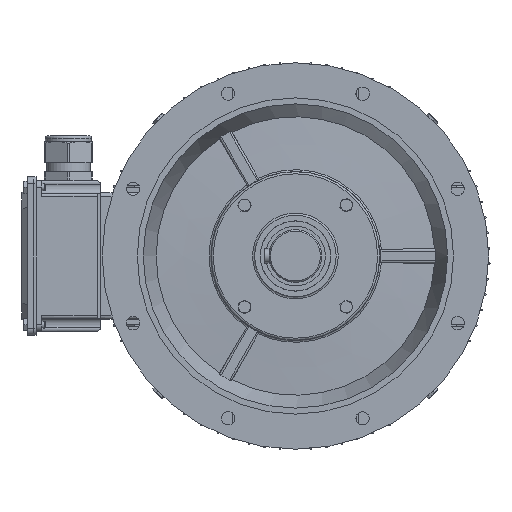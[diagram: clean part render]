
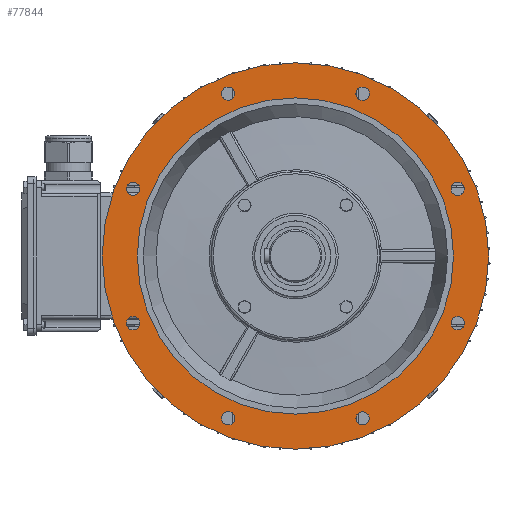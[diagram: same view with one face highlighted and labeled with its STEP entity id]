
A CAD part, left-side view. The second image highlights one B-rep face of the part: STEP entity #77844.
In plain terms, the highlighted planar face has unit normal (-1, 0, 0).
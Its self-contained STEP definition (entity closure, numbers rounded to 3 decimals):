
#77626=CARTESIAN_POINT('',(140.0,88.953,-237.687));
#77627=VERTEX_POINT('',#77626);
#77628=CARTESIAN_POINT('',(140.0,95.671,-230.97));
#77629=DIRECTION('',(1.0,0.,0.));
#77630=DIRECTION('',(0.,0.707,0.707));
#77631=AXIS2_PLACEMENT_3D('',#77628,#77629,#77630);
#77632=CIRCLE('',#77631,9.5);
#77633=EDGE_CURVE('',#77627,#77627,#77632,.T.);
#77646=CARTESIAN_POINT('',(140.0,-105.171,-230.97));
#77647=VERTEX_POINT('',#77646);
#77648=CARTESIAN_POINT('',(140.0,-95.671,-230.97));
#77649=DIRECTION('',(1.0,0.0,0.0));
#77650=DIRECTION('',(0.0,1.0,0.0));
#77651=AXIS2_PLACEMENT_3D('',#77648,#77649,#77650);
#77652=CIRCLE('',#77651,9.5);
#77653=EDGE_CURVE('',#77647,#77647,#77652,.T.);
#77666=CARTESIAN_POINT('',(140.0,-237.687,-88.953));
#77667=VERTEX_POINT('',#77666);
#77668=CARTESIAN_POINT('',(140.0,-230.97,-95.671));
#77669=DIRECTION('',(1.0,0.,0.));
#77670=DIRECTION('',(0.,0.707,-0.707));
#77671=AXIS2_PLACEMENT_3D('',#77668,#77669,#77670);
#77672=CIRCLE('',#77671,9.5);
#77673=EDGE_CURVE('',#77667,#77667,#77672,.T.);
#77686=CARTESIAN_POINT('',(140.0,-230.97,105.171));
#77687=VERTEX_POINT('',#77686);
#77688=CARTESIAN_POINT('',(140.0,-230.97,95.671));
#77689=DIRECTION('',(1.0,0.0,0.0));
#77690=DIRECTION('',(0.0,0.0,-1.0));
#77691=AXIS2_PLACEMENT_3D('',#77688,#77689,#77690);
#77692=CIRCLE('',#77691,9.5);
#77693=EDGE_CURVE('',#77687,#77687,#77692,.T.);
#77706=CARTESIAN_POINT('',(140.0,-88.953,237.687));
#77707=VERTEX_POINT('',#77706);
#77708=CARTESIAN_POINT('',(140.0,-95.671,230.97));
#77709=DIRECTION('',(1.0,0.,0.));
#77710=DIRECTION('',(0.,-0.707,-0.707));
#77711=AXIS2_PLACEMENT_3D('',#77708,#77709,#77710);
#77712=CIRCLE('',#77711,9.5);
#77713=EDGE_CURVE('',#77707,#77707,#77712,.T.);
#77726=CARTESIAN_POINT('',(140.0,105.171,230.97));
#77727=VERTEX_POINT('',#77726);
#77728=CARTESIAN_POINT('',(140.0,95.671,230.97));
#77729=DIRECTION('',(1.0,0.0,0.0));
#77730=DIRECTION('',(0.0,-1.0,0.0));
#77731=AXIS2_PLACEMENT_3D('',#77728,#77729,#77730);
#77732=CIRCLE('',#77731,9.5);
#77733=EDGE_CURVE('',#77727,#77727,#77732,.T.);
#77746=CARTESIAN_POINT('',(140.0,237.687,88.953));
#77747=VERTEX_POINT('',#77746);
#77748=CARTESIAN_POINT('',(140.0,230.97,95.671));
#77749=DIRECTION('',(1.0,0.,0.));
#77750=DIRECTION('',(0.,-0.707,0.707));
#77751=AXIS2_PLACEMENT_3D('',#77748,#77749,#77750);
#77752=CIRCLE('',#77751,9.5);
#77753=EDGE_CURVE('',#77747,#77747,#77752,.T.);
#77766=CARTESIAN_POINT('',(140.0,230.97,-105.171));
#77767=VERTEX_POINT('',#77766);
#77768=CARTESIAN_POINT('',(140.0,230.97,-95.671));
#77769=DIRECTION('',(1.0,0.0,0.0));
#77770=DIRECTION('',(0.0,0.0,1.0));
#77771=AXIS2_PLACEMENT_3D('',#77768,#77769,#77770);
#77772=CIRCLE('',#77771,9.5);
#77773=EDGE_CURVE('',#77767,#77767,#77772,.T.);
#77789=CARTESIAN_POINT('',(140.0,275.0,0.0));
#77790=VERTEX_POINT('',#77789);
#77791=CARTESIAN_POINT('',(140.0,0.,0.0));
#77792=DIRECTION('',(1.0,0.0,0.0));
#77793=DIRECTION('',(0.0,1.0,0.0));
#77794=AXIS2_PLACEMENT_3D('',#77791,#77792,#77793);
#77795=CIRCLE('',#77794,275.0);
#77796=EDGE_CURVE('',#77790,#77790,#77795,.T.);
#77801=CARTESIAN_POINT('',(140.0,250.0,0.0));
#77802=DIRECTION('',(-1.0,0.0,0.0));
#77803=DIRECTION('',(0.0,0.0,1.0));
#77804=AXIS2_PLACEMENT_3D('',#77801,#77802,#77803);
#77805=PLANE('',#77804);
#77806=ORIENTED_EDGE('',*,*,#77796,.F.);
#77807=EDGE_LOOP('',(#77806));
#77808=FACE_OUTER_BOUND('',#77807,.T.);
#77809=ORIENTED_EDGE('',*,*,#77633,.T.);
#77810=EDGE_LOOP('',(#77809));
#77811=FACE_BOUND('',#77810,.T.);
#77812=ORIENTED_EDGE('',*,*,#77653,.T.);
#77813=EDGE_LOOP('',(#77812));
#77814=FACE_BOUND('',#77813,.T.);
#77815=ORIENTED_EDGE('',*,*,#77673,.T.);
#77816=EDGE_LOOP('',(#77815));
#77817=FACE_BOUND('',#77816,.T.);
#77818=ORIENTED_EDGE('',*,*,#77693,.T.);
#77819=EDGE_LOOP('',(#77818));
#77820=FACE_BOUND('',#77819,.T.);
#77821=ORIENTED_EDGE('',*,*,#77713,.T.);
#77822=EDGE_LOOP('',(#77821));
#77823=FACE_BOUND('',#77822,.T.);
#77824=ORIENTED_EDGE('',*,*,#77733,.T.);
#77825=EDGE_LOOP('',(#77824));
#77826=FACE_BOUND('',#77825,.T.);
#77827=ORIENTED_EDGE('',*,*,#77753,.T.);
#77828=EDGE_LOOP('',(#77827));
#77829=FACE_BOUND('',#77828,.T.);
#77830=ORIENTED_EDGE('',*,*,#77773,.T.);
#77831=EDGE_LOOP('',(#77830));
#77832=FACE_BOUND('',#77831,.T.);
#77833=CARTESIAN_POINT('',(140.0,225.0,0.0));
#77834=VERTEX_POINT('',#77833);
#77835=CARTESIAN_POINT('',(140.0,0.,0.0));
#77836=DIRECTION('',(1.0,0.0,0.0));
#77837=DIRECTION('',(0.0,1.0,0.0));
#77838=AXIS2_PLACEMENT_3D('',#77835,#77836,#77837);
#77839=CIRCLE('',#77838,225.0);
#77840=EDGE_CURVE('',#77834,#77834,#77839,.T.);
#77841=ORIENTED_EDGE('',*,*,#77840,.T.);
#77842=EDGE_LOOP('',(#77841));
#77843=FACE_BOUND('',#77842,.T.);
#77844=ADVANCED_FACE('',(#77808,#77811,#77814,#77817,#77820,#77823,#77826,#77829,#77832,#77843),#77805,.T.);
